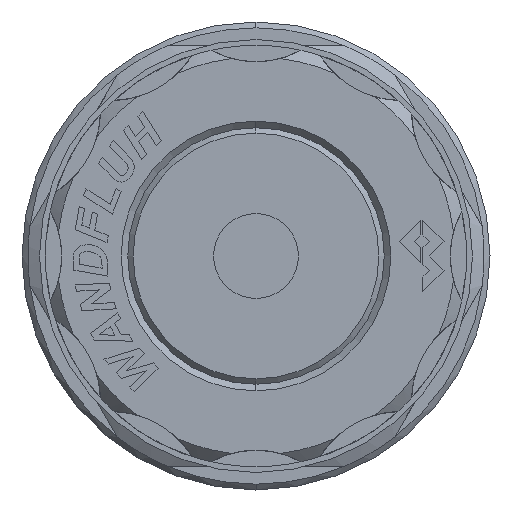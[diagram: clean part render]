
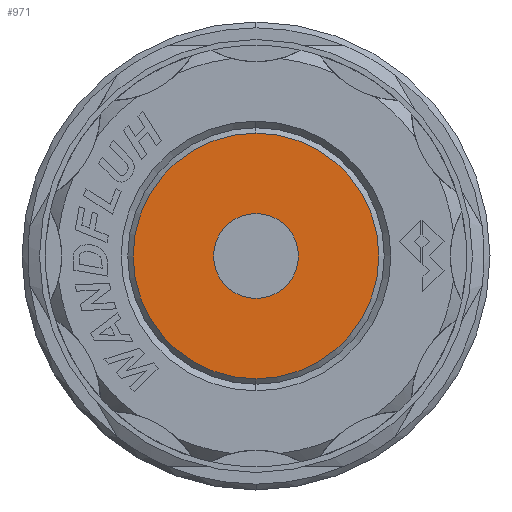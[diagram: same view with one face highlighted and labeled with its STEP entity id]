
A CAD part, left-side view. The second image highlights one B-rep face of the part: STEP entity #971.
In plain terms, the highlighted planar face has unit normal (-1, 0, 0).
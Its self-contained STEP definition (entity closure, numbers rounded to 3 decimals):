
#118 = EDGE_CURVE ( 'NONE', #9664, #12597, #6306, .T. ) ;
#450 = CARTESIAN_POINT ( 'NONE',  ( -70.2, 0., 3.625 ) ) ;
#612 = CIRCLE ( 'NONE', #2631, 3.625 ) ;
#971 = ADVANCED_FACE ( 'NONE', ( #3123, #16819 ), #1264, .F. ) ;
#1264 = PLANE ( 'NONE',  #12029 ) ;
#1386 = VERTEX_POINT ( 'NONE', #16359 ) ;
#2023 = CARTESIAN_POINT ( 'NONE',  ( -70.2, 0., 0. ) ) ;
#2427 = ORIENTED_EDGE ( 'NONE', *, *, #9433, .T. ) ;
#2631 = AXIS2_PLACEMENT_3D ( 'NONE', #2023, #15537, #11251 ) ;
#3096 = CARTESIAN_POINT ( 'NONE',  ( -70.2, 0., -3.625 ) ) ;
#3123 = FACE_BOUND ( 'NONE', #9268, .T. ) ;
#3166 = DIRECTION ( 'NONE',  ( 0., 0., -1. ) ) ;
#3177 = EDGE_LOOP ( 'NONE', ( #2427, #7380 ) ) ;
#4074 = AXIS2_PLACEMENT_3D ( 'NONE', #6813, #6698, #6502 ) ;
#5824 = CIRCLE ( 'NONE', #4074, 10.5 ) ;
#6306 = CIRCLE ( 'NONE', #7779, 3.625 ) ;
#6496 = ORIENTED_EDGE ( 'NONE', *, *, #118, .T. ) ;
#6502 = DIRECTION ( 'NONE',  ( 0., 0., -1. ) ) ;
#6698 = DIRECTION ( 'NONE',  ( -1., 0., 0. ) ) ;
#6775 = DIRECTION ( 'NONE',  ( 0., 0., -1. ) ) ;
#6813 = CARTESIAN_POINT ( 'NONE',  ( -70.2, 0., 0. ) ) ;
#7380 = ORIENTED_EDGE ( 'NONE', *, *, #12988, .T. ) ;
#7779 = AXIS2_PLACEMENT_3D ( 'NONE', #12714, #8089, #6775 ) ;
#8089 = DIRECTION ( 'NONE',  ( 1., 0., 0. ) ) ;
#8850 = ORIENTED_EDGE ( 'NONE', *, *, #12802, .T. ) ;
#9268 = EDGE_LOOP ( 'NONE', ( #6496, #8850 ) ) ;
#9284 = CARTESIAN_POINT ( 'NONE',  ( -70.2, 0., -10.5 ) ) ;
#9433 = EDGE_CURVE ( 'NONE', #10252, #1386, #9900, .T. ) ;
#9664 = VERTEX_POINT ( 'NONE', #3096 ) ;
#9847 = CARTESIAN_POINT ( 'NONE',  ( -70.2, 0., 0. ) ) ;
#9900 = CIRCLE ( 'NONE', #15015, 10.5 ) ;
#10252 = VERTEX_POINT ( 'NONE', #9284 ) ;
#11251 = DIRECTION ( 'NONE',  ( 0., 0., -1. ) ) ;
#11810 = DIRECTION ( 'NONE',  ( 1., 0., 0. ) ) ;
#12029 = AXIS2_PLACEMENT_3D ( 'NONE', #9847, #11810, #13082 ) ;
#12597 = VERTEX_POINT ( 'NONE', #450 ) ;
#12714 = CARTESIAN_POINT ( 'NONE',  ( -70.2, 0., 0. ) ) ;
#12802 = EDGE_CURVE ( 'NONE', #12597, #9664, #612, .T. ) ;
#12988 = EDGE_CURVE ( 'NONE', #1386, #10252, #5824, .T. ) ;
#13082 = DIRECTION ( 'NONE',  ( 0., 0., -1. ) ) ;
#13777 = CARTESIAN_POINT ( 'NONE',  ( -70.2, 0., 0. ) ) ;
#15015 = AXIS2_PLACEMENT_3D ( 'NONE', #13777, #15119, #3166 ) ;
#15119 = DIRECTION ( 'NONE',  ( -1., 0., 0. ) ) ;
#15537 = DIRECTION ( 'NONE',  ( 1., 0., 0. ) ) ;
#16359 = CARTESIAN_POINT ( 'NONE',  ( -70.2, 0., 10.5 ) ) ;
#16819 = FACE_OUTER_BOUND ( 'NONE', #3177, .T. ) ;
